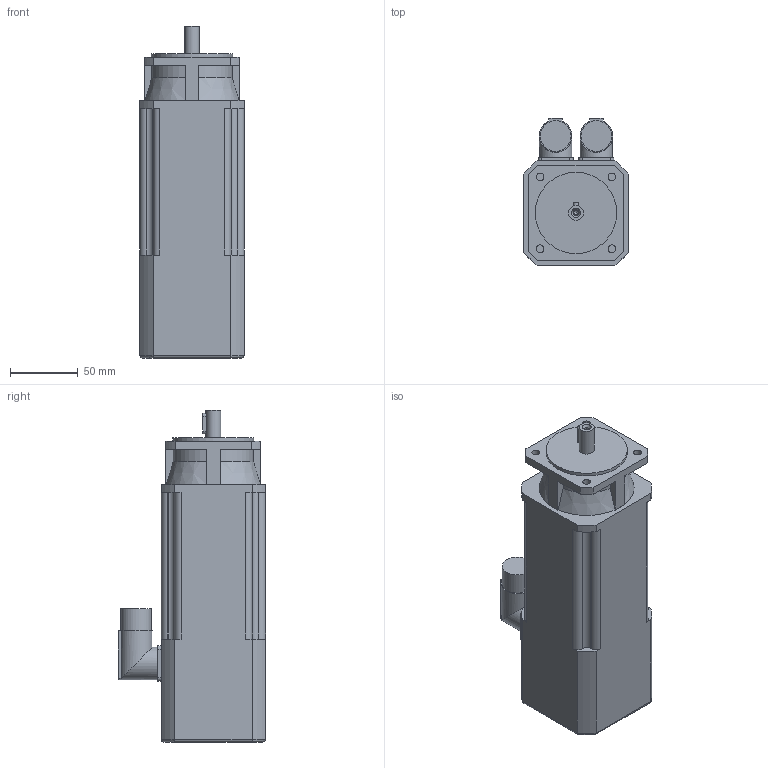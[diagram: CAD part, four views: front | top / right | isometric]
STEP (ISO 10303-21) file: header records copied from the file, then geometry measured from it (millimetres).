
FILE_DESCRIPTION(/* description */ (''),/* implementation_level */ '2;1');
FILE_NAME(/* name */ '\\Lafnas01\disegni\Archivi Lafert\3D\CAD 3D\MODELLI\Assiemi clienti\Serad\Modelli 3D Serad\B36I\Encoder\Enc Without Brake\B36E8Ixx6ARx2033.ipt.stp',/* time_stamp */ '2015-09-07T10:49:01+02:00',/* author */ ('Pastrello Ylenia'),/* organization */ (''),/* preprocessor_version */ 'ST-DEVELOPER v15.6',/* originating_system */ 'Autodesk Inventor 2015',/* authorisation */ '');
FILE_SCHEMA (('AUTOMOTIVE_DESIGN { 1 0 10303 214 3 1 1 }'));
Length unit declared in the file: millimetre
Products named in the file (1): B36E8Ixx6ARx2033
Bounding box: 77 x 108.5 x 245 mm (x, y, z)
Volume: 1245262.5 mm3; surface area: 86922.4 mm2
Topology: 1 solids, 1 shells, 135 faces, 364 edges, 240 vertices
Faces by surface type: plane 64, cylinder 56, cone 11, torus 4
Full cylindrical faces by diameter (mm): 3.242 x1, 4.3 x1, 5.8 x4, 11 x1, 22.7 x2, 24 x2, 60 x1
Entity records: 4274 total; most frequent: CARTESIAN_POINT 876, DIRECTION 712, ORIENTED_EDGE 686, EDGE_CURVE 343, AXIS2_PLACEMENT_3D 255, VERTEX_POINT 235, LINE 202, VECTOR 202
